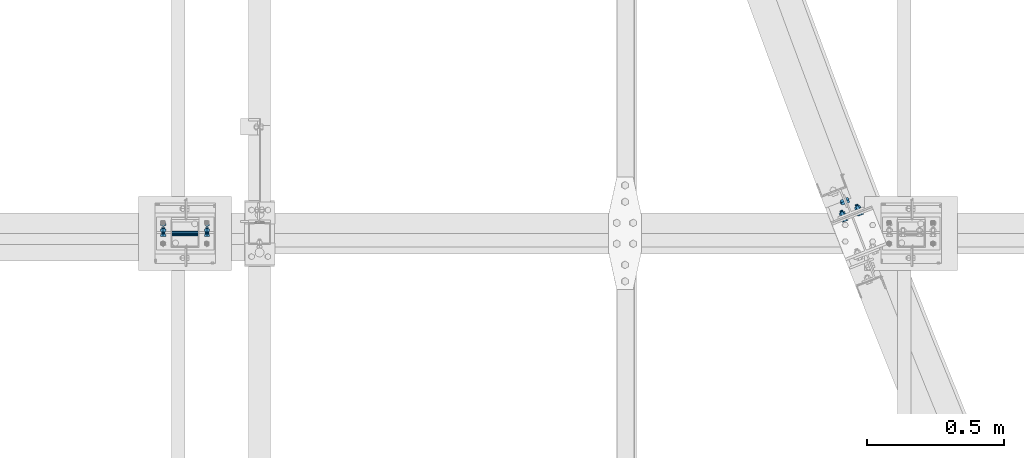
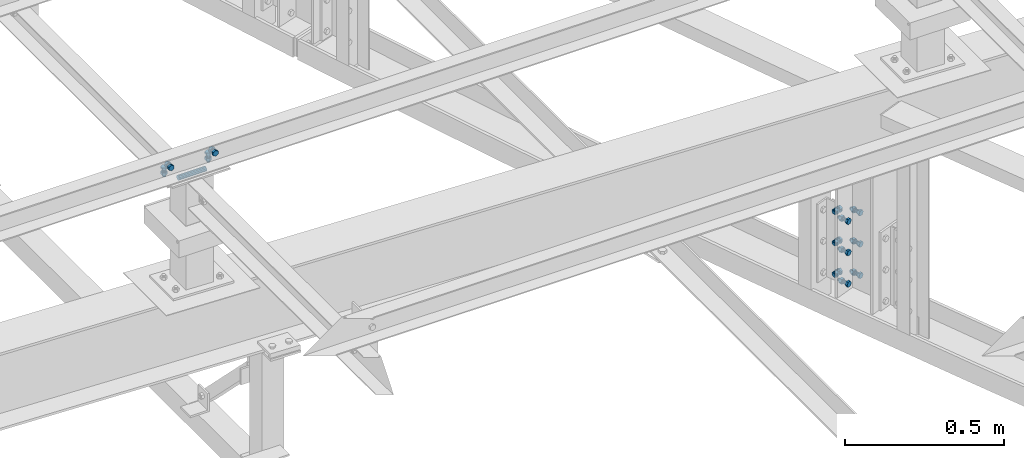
# One storey, part 42 of 3134: 5 mechanical fasteners, 4 elements without a shape of their own.
"""IFC2X3 building model written with IfcOpenShell, lengths in millimetres."""

from ifc_helpers import new_model, si_unit, frame, origin_with_axes, place, context, subcontext, project, spatial, faceted_brep, source, transform, mapped, material, type_object, element, aggregate, save


model = new_model("IFC2X3")

# Units and contexts
model_context = context("Model", 3, precision=1e-05, world=origin_with_axes())
body_context = subcontext(model_context, "Body", "Model", "MODEL_VIEW")
ifc_project = project(units=[si_unit("LENGTHUNIT", "METRE", prefix="MILLI"), si_unit("AREAUNIT", "SQUARE_METRE"), si_unit("VOLUMEUNIT", "CUBIC_METRE"), si_unit("MASSUNIT", "GRAM", prefix="KILO"), si_unit("TIMEUNIT", "SECOND"), si_unit("PLANEANGLEUNIT", "RADIAN"), si_unit("SOLIDANGLEUNIT", "STERADIAN"), si_unit("THERMODYNAMICTEMPERATUREUNIT", "DEGREE_CELSIUS"), si_unit("LUMINOUSINTENSITYUNIT", "LUMEN")], contexts=[model_context])

# Site, building, storey
site_placement = place(None, origin_with_axes())
site = spatial("IfcSite", under=ifc_project, at=site_placement, CompositionType="ELEMENT")
building_placement = place(site_placement, origin_with_axes())
building = spatial("IfcBuilding", under=site, at=building_placement, Name="Undefined", CompositionType="ELEMENT")
storey_placement = place(building_placement, origin_with_axes())
storey = spatial("IfcBuildingStorey", under=building, at=storey_placement, Name="Undefined", CompositionType="ELEMENT", Elevation=0.0)

# Assembly, mechanical fastener
assembly_1_placement = place(storey_placement, origin_with_axes())
assembly_1 = element("IfcElementAssembly", 1, at=assembly_1_placement, inside=storey, AssemblyPlace="NOTDEFINED", PredefinedType="RIGID_FRAME")
ifc_material = material(Name="8.8")
mechanical_fastener_type = type_object("IfcMechanicalFastenerType", Name="Bolt assembly")
shared_shape_1 = source(origin_with_axes(), body_context, "Body", "Brep", [
    faceted_brep([(10.9696551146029, -14.0, 0.0), (5.48482755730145, -14.0, 9.5), (-5.48482755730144, -14.0, 9.5), (-10.9696551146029, -14.0, 1.34339530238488e-15), (-5.48482755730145, -14.0, -9.5), (5.48482755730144, -14.0, -9.50000000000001), (5.48482755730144, -6.0, -9.50000000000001), (-5.48482755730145, -6.0, -9.5), (-10.9696551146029, -6.0, 1.34339530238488e-15), (-5.48482755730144, -6.0, 9.5), (5.48482755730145, -6.0, 9.5), (10.9696551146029, -6.0, 0.0), (6.0, -6.0, 0.0), (5.19615242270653, -6.0, 3.00000000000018), (2.99999999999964, -6.0, 5.19615242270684), (-6.21801588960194e-13, -6.0, 6.0), (-3.00000000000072, -6.0, 5.19615242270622), (-5.19615242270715, -6.0, 2.9999999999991), (-6.0, -6.0, -1.24360317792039e-12), (-5.19615242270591, -6.0, -3.00000000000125), (-2.99999999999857, -6.0, -5.19615242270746), (1.85874342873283e-12, -6.0, -6.0), (3.00000000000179, -6.0, -5.1961524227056), (5.19615242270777, -6.0, -2.99999999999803), (5.19615242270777, 24.0, -2.99999999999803), (3.00000000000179, 24.0, -5.1961524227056), (1.85874342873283e-12, 24.0, -6.0), (-2.99999999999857, 24.0, -5.19615242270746), (-5.19615242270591, 24.0, -3.00000000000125), (-6.0, 24.0, -1.24360317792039e-12), (-5.19615242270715, 24.0, 2.9999999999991), (-3.00000000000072, 24.0, 5.19615242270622), (-6.21801588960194e-13, 24.0, 6.0), (2.99999999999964, 24.0, 5.19615242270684), (5.19615242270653, 24.0, 3.00000000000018), (6.0, 24.0, 0.0), (10.9696551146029, 6.00000000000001, 0.0), (5.48482755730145, 6.00000000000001, 9.5), (-5.48482755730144, 6.00000000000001, 9.5), (-10.9696551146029, 6.00000000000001, 1.34339530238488e-15), (-5.48482755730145, 6.00000000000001, -9.5), (5.48482755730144, 6.00000000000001, -9.50000000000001), (5.48482755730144, 16.0, -9.50000000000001), (-5.48482755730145, 16.0, -9.5), (-10.9696551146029, 16.0, 1.34339530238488e-15), (-5.48482755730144, 16.0, 9.5), (5.48482755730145, 16.0, 9.5), (10.9696551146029, 16.0, 0.0)], [[[0, 1, 2, 3, 4, 5]], [[6, 7, 8, 9, 10, 11]], [[0, 11, 10, 1]], [[1, 10, 9, 2]], [[2, 9, 8, 3]], [[3, 8, 7, 4]], [[4, 7, 6, 5]], [[5, 6, 11, 0]], [[12, 13, 14, 15, 16, 17, 18, 19, 20, 21, 22, 23]], [[24, 25, 26, 27, 28, 29, 30, 31, 32, 33, 34, 35]], [[12, 35, 34, 13]], [[13, 34, 33, 14]], [[14, 33, 32, 15]], [[15, 32, 31, 16]], [[16, 31, 30, 17]], [[17, 30, 29, 18]], [[18, 29, 28, 19]], [[19, 28, 27, 20]], [[20, 27, 26, 21]], [[21, 26, 25, 22]], [[22, 25, 24, 23]], [[23, 24, 35, 12]], [[36, 37, 38, 39, 40, 41]], [[42, 43, 44, 45, 46, 47]], [[36, 47, 46, 37]], [[37, 46, 45, 38]], [[38, 45, 44, 39]], [[39, 44, 43, 40]], [[40, 43, 42, 41]], [[41, 42, 47, 36]]]),
    faceted_brep([(7.0, -0.1, 0.0), (6.06217782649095, -0.1, 3.50000000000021), (3.49999999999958, -0.1, 6.06217782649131), (-7.25435187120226e-13, -0.1, 7.0), (-3.50000000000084, -0.1, 6.06217782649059), (-6.06217782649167, -0.1, 3.49999999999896), (-7.0, -0.1, -1.45087037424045e-12), (-6.06217782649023, -0.1, -3.50000000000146), (-3.49999999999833, -0.1, -6.06217782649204), (2.1685340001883e-12, -0.1, -7.0), (3.50000000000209, -0.1, -6.06217782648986), (6.0621778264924, -0.1, -3.4999999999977), (6.0621778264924, 6.00000000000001, -3.4999999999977), (3.50000000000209, 6.00000000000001, -6.06217782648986), (2.1685340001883e-12, 6.00000000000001, -7.0), (-3.49999999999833, 6.00000000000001, -6.06217782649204), (-6.06217782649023, 6.00000000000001, -3.50000000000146), (-7.0, 6.00000000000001, -1.45087037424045e-12), (-6.06217782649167, 6.00000000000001, 3.49999999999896), (-3.50000000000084, 6.00000000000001, 6.06217782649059), (-7.25435187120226e-13, 6.00000000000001, 7.0), (3.49999999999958, 6.00000000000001, 6.06217782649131), (6.06217782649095, 6.00000000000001, 3.50000000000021), (7.0, 6.00000000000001, 0.0), (7.0, -5.9, 0.0), (6.06217782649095, -5.9, 3.50000000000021), (3.49999999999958, -5.9, 6.06217782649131), (-7.25435187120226e-13, -5.9, 7.0), (-3.50000000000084, -5.9, 6.06217782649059), (-6.06217782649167, -5.9, 3.49999999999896), (-7.0, -5.9, -1.45087037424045e-12), (-6.06217782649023, -5.9, -3.50000000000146), (-3.49999999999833, -5.9, -6.06217782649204), (2.1685340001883e-12, -5.9, -7.0), (3.50000000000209, -5.9, -6.06217782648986), (6.0621778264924, -5.9, -3.4999999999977), (6.0621778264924, 0.0999999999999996, -3.4999999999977), (3.50000000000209, 0.0999999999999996, -6.06217782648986), (2.1685340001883e-12, 0.0999999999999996, -7.0), (-3.49999999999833, 0.0999999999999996, -6.06217782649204), (-6.06217782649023, 0.0999999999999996, -3.50000000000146), (-7.0, 0.0999999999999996, -1.45087037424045e-12), (-6.06217782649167, 0.0999999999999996, 3.49999999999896), (-3.50000000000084, 0.0999999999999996, 6.06217782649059), (-7.25435187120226e-13, 0.0999999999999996, 7.0), (3.49999999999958, 0.0999999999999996, 6.06217782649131), (6.06217782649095, 0.0999999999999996, 3.50000000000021), (7.0, 0.0999999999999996, 0.0)], [[[0, 1, 2, 3, 4, 5, 6, 7, 8, 9, 10, 11]], [[12, 13, 14, 15, 16, 17, 18, 19, 20, 21, 22, 23]], [[0, 23, 22, 1]], [[1, 22, 21, 2]], [[2, 21, 20, 3]], [[3, 20, 19, 4]], [[4, 19, 18, 5]], [[5, 18, 17, 6]], [[6, 17, 16, 7]], [[7, 16, 15, 8]], [[8, 15, 14, 9]], [[9, 14, 13, 10]], [[10, 13, 12, 11]], [[11, 12, 23, 0]], [[24, 25, 26, 27, 28, 29, 30, 31, 32, 33, 34, 35]], [[36, 37, 38, 39, 40, 41, 42, 43, 44, 45, 46, 47]], [[24, 47, 46, 25]], [[25, 46, 45, 26]], [[26, 45, 44, 27]], [[27, 44, 43, 28]], [[28, 43, 42, 29]], [[29, 42, 41, 30]], [[30, 41, 40, 31]], [[31, 40, 39, 32]], [[32, 39, 38, 33]], [[33, 38, 37, 34]], [[34, 37, 36, 35]], [[35, 36, 47, 24]]]),
])
mechanical_fastener_1_placement = place(assembly_1_placement, frame((3043.33, 17355.0, 4365.0), z_axis=(1.0, 0.0, 0.0), x_axis=(0.0, -1.0, 0.0)))
mechanical_fastener_1 = element("IfcMechanicalFastener", 2, at=mechanical_fastener_1_placement, type_object=mechanical_fastener_type, material=ifc_material, Name="Bolt assembly", NominalDiameter=12.0, NominalLength=30.0, context=body_context, shape_type="MappedRepresentation", body=[
    mapped(shared_shape_1, transform((0.0, -5.32963895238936e-10, -79.9999999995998))),
    mapped(shared_shape_1, transform((0.0, 5.3114490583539e-10, 79.9999999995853))),
])

assembly_2_placement = place(storey_placement, origin_with_axes())
assembly_2 = element("IfcElementAssembly", 3, at=assembly_2_placement, inside=storey, Name="HEA160", AssemblyPlace="NOTDEFINED", PredefinedType="RIGID_FRAME")
shared_shape_2 = source(origin_with_axes(), body_context, "Body", "Brep", [
    faceted_brep([(10.9696551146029, -17.0000000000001, 0.0), (5.48482755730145, -17.0000000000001, 9.5), (-5.48482755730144, -17.0000000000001, 9.5), (-10.9696551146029, -17.0000000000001, 1.34339530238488e-15), (-5.48482755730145, -17.0000000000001, -9.5), (5.48482755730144, -17.0000000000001, -9.50000000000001), (5.48482755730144, -9.00000000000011, -9.50000000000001), (-5.48482755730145, -9.00000000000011, -9.5), (-10.9696551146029, -9.00000000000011, 1.34339530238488e-15), (-5.48482755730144, -9.00000000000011, 9.5), (5.48482755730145, -9.00000000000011, 9.5), (10.9696551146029, -9.00000000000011, 0.0), (6.0, -9.00000000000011, 0.0), (5.19615242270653, -9.00000000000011, 3.00000000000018), (2.99999999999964, -9.00000000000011, 5.19615242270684), (-6.21801588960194e-13, -9.00000000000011, 6.0), (-3.00000000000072, -9.00000000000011, 5.19615242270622), (-5.19615242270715, -9.00000000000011, 2.9999999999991), (-6.0, -9.00000000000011, -1.24360317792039e-12), (-5.19615242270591, -9.00000000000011, -3.00000000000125), (-2.99999999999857, -9.00000000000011, -5.19615242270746), (1.85874342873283e-12, -9.00000000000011, -6.0), (3.00000000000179, -9.00000000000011, -5.1961524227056), (5.19615242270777, -9.00000000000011, -2.99999999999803), (5.19615242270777, 26.0, -2.99999999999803), (3.00000000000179, 26.0, -5.1961524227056), (1.85874342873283e-12, 26.0, -6.0), (-2.99999999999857, 26.0, -5.19615242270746), (-5.19615242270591, 26.0, -3.00000000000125), (-6.0, 26.0, -1.24360317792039e-12), (-5.19615242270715, 26.0, 2.9999999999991), (-3.00000000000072, 26.0, 5.19615242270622), (-6.21801588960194e-13, 26.0, 6.0), (2.99999999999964, 26.0, 5.19615242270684), (5.19615242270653, 26.0, 3.00000000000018), (6.0, 26.0, 0.0), (10.9696551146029, 8.0, 0.0), (5.48482755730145, 8.0, 9.5), (-5.48482755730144, 8.0, 9.5), (-10.9696551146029, 8.0, 1.34339530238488e-15), (-5.48482755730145, 8.0, -9.5), (5.48482755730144, 8.0, -9.50000000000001), (5.48482755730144, 18.0, -9.50000000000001), (-5.48482755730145, 18.0, -9.5), (-10.9696551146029, 18.0, 1.34339530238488e-15), (-5.48482755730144, 18.0, 9.5), (5.48482755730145, 18.0, 9.5), (10.9696551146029, 18.0, 0.0)], [[[0, 1, 2, 3, 4, 5]], [[6, 7, 8, 9, 10, 11]], [[0, 11, 10, 1]], [[1, 10, 9, 2]], [[2, 9, 8, 3]], [[3, 8, 7, 4]], [[4, 7, 6, 5]], [[5, 6, 11, 0]], [[12, 13, 14, 15, 16, 17, 18, 19, 20, 21, 22, 23]], [[24, 25, 26, 27, 28, 29, 30, 31, 32, 33, 34, 35]], [[12, 35, 34, 13]], [[13, 34, 33, 14]], [[14, 33, 32, 15]], [[15, 32, 31, 16]], [[16, 31, 30, 17]], [[17, 30, 29, 18]], [[18, 29, 28, 19]], [[19, 28, 27, 20]], [[20, 27, 26, 21]], [[21, 26, 25, 22]], [[22, 25, 24, 23]], [[23, 24, 35, 12]], [[36, 37, 38, 39, 40, 41]], [[42, 43, 44, 45, 46, 47]], [[36, 47, 46, 37]], [[37, 46, 45, 38]], [[38, 45, 44, 39]], [[39, 44, 43, 40]], [[40, 43, 42, 41]], [[41, 42, 47, 36]]]),
    faceted_brep([(7.0, -0.1, 0.0), (6.06217782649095, -0.1, 3.50000000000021), (3.49999999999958, -0.1, 6.06217782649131), (-7.25435187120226e-13, -0.1, 7.0), (-3.50000000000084, -0.1, 6.06217782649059), (-6.06217782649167, -0.1, 3.49999999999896), (-7.0, -0.1, -1.45087037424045e-12), (-6.06217782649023, -0.1, -3.50000000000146), (-3.49999999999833, -0.1, -6.06217782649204), (2.1685340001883e-12, -0.1, -7.0), (3.50000000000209, -0.1, -6.06217782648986), (6.0621778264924, -0.1, -3.4999999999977), (6.0621778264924, 8.0000000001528, -3.4999999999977), (3.50000000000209, 8.0000000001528, -6.06217782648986), (2.1685340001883e-12, 8.0000000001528, -7.0), (-3.49999999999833, 8.0000000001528, -6.06217782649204), (-6.06217782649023, 8.0000000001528, -3.50000000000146), (-7.0, 8.0000000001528, -1.45087037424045e-12), (-6.06217782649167, 8.0000000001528, 3.49999999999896), (-3.50000000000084, 8.0000000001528, 6.06217782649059), (-7.25435187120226e-13, 8.0000000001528, 7.0), (3.49999999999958, 8.0000000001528, 6.06217782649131), (6.06217782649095, 8.0000000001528, 3.50000000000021), (7.0, 8.0000000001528, 0.0), (7.0, -8.90000000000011, 0.0), (6.06217782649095, -8.90000000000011, 3.50000000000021), (3.49999999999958, -8.90000000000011, 6.06217782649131), (-7.25435187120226e-13, -8.90000000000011, 7.0), (-3.50000000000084, -8.90000000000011, 6.06217782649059), (-6.06217782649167, -8.90000000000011, 3.49999999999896), (-7.0, -8.90000000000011, -1.45087037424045e-12), (-6.06217782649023, -8.90000000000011, -3.50000000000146), (-3.49999999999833, -8.90000000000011, -6.06217782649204), (2.1685340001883e-12, -8.90000000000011, -7.0), (3.50000000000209, -8.90000000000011, -6.06217782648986), (6.0621778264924, -8.90000000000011, -3.4999999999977), (6.0621778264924, 0.0999999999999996, -3.4999999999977), (3.50000000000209, 0.0999999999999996, -6.06217782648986), (2.1685340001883e-12, 0.0999999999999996, -7.0), (-3.49999999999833, 0.0999999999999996, -6.06217782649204), (-6.06217782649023, 0.0999999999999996, -3.50000000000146), (-7.0, 0.0999999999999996, -1.45087037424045e-12), (-6.06217782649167, 0.0999999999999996, 3.49999999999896), (-3.50000000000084, 0.0999999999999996, 6.06217782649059), (-7.25435187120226e-13, 0.0999999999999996, 7.0), (3.49999999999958, 0.0999999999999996, 6.06217782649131), (6.06217782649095, 0.0999999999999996, 3.50000000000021), (7.0, 0.0999999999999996, 0.0)], [[[0, 1, 2, 3, 4, 5, 6, 7, 8, 9, 10, 11]], [[12, 13, 14, 15, 16, 17, 18, 19, 20, 21, 22, 23]], [[0, 23, 22, 1]], [[1, 22, 21, 2]], [[2, 21, 20, 3]], [[3, 20, 19, 4]], [[4, 19, 18, 5]], [[5, 18, 17, 6]], [[6, 17, 16, 7]], [[7, 16, 15, 8]], [[8, 15, 14, 9]], [[9, 14, 13, 10]], [[10, 13, 12, 11]], [[11, 12, 23, 0]], [[24, 25, 26, 27, 28, 29, 30, 31, 32, 33, 34, 35]], [[36, 37, 38, 39, 40, 41, 42, 43, 44, 45, 46, 47]], [[24, 47, 46, 25]], [[25, 46, 45, 26]], [[26, 45, 44, 27]], [[27, 44, 43, 28]], [[28, 43, 42, 29]], [[29, 42, 41, 30]], [[30, 41, 40, 31]], [[31, 40, 39, 32]], [[32, 39, 38, 33]], [[33, 38, 37, 34]], [[34, 37, 36, 35]], [[35, 36, 47, 24]]]),
])
mechanical_fastener_2_placement = place(assembly_2_placement, frame((5445.10846336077, 17379.940317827, 3170.0), z_axis=(0.0, 0.0, 1.0), x_axis=(0.931882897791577, 0.362759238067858, 0.0)))
mechanical_fastener_2 = element("IfcMechanicalFastener", 4, at=mechanical_fastener_2_placement, type_object=mechanical_fastener_type, material=ifc_material, Name="Bolt assembly", NominalDiameter=12.0, NominalLength=35.0, context=body_context, shape_type="MappedRepresentation", body=[
    mapped(shared_shape_2, transform((0.0, 0.0, -120.0))),
    mapped(shared_shape_2, transform((60.0000000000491, 0.0, -120.0))),
    mapped(shared_shape_2, transform((0.0, 0.0, 0.0))),
    mapped(shared_shape_2, transform((59.9999999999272, 0.0, 5.40239852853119e-10))),
    mapped(shared_shape_2, transform((0.0, 0.0, 120.0))),
    mapped(shared_shape_2, transform((60.0000000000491, 0.0, 120.0))),
])
aggregate(assembly_2, [mechanical_fastener_2])

assembly_3_placement = place(storey_placement, origin_with_axes())
assembly_3 = element("IfcElementAssembly", 5, at=assembly_3_placement, inside=storey, AssemblyPlace="NOTDEFINED", PredefinedType="RIGID_FRAME")
shared_shape_3 = source(origin_with_axes(), body_context, "Body", "Brep", [
    faceted_brep([(10.9696551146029, -10.499999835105, 0.0), (5.48482755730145, -10.499999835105, 9.5), (-5.48482755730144, -10.499999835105, 9.5), (-10.9696551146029, -10.499999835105, 1.34339530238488e-15), (-5.48482755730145, -10.499999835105, -9.5), (5.48482755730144, -10.499999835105, -9.50000000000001), (5.48482755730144, -2.49999983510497, -9.50000000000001), (-5.48482755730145, -2.49999983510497, -9.5), (-10.9696551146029, -2.49999983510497, 1.34339530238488e-15), (-5.48482755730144, -2.49999983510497, 9.5), (5.48482755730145, -2.49999983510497, 9.5), (10.9696551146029, -2.49999983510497, 0.0), (6.0, -2.49999983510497, 0.0), (5.19615242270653, -2.49999983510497, 3.00000000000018), (2.99999999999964, -2.49999983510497, 5.19615242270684), (-6.21801588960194e-13, -2.49999983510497, 6.0), (-3.00000000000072, -2.49999983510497, 5.19615242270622), (-5.19615242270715, -2.49999983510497, 2.9999999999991), (-6.0, -2.49999983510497, -1.24360317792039e-12), (-5.19615242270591, -2.49999983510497, -3.00000000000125), (-2.99999999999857, -2.49999983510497, -5.19615242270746), (1.85874342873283e-12, -2.49999983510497, -6.0), (3.00000000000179, -2.49999983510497, -5.1961524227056), (5.19615242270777, -2.49999983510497, -2.99999999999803), (5.19615242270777, 22.5, -2.99999999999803), (3.00000000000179, 22.5, -5.1961524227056), (1.85874342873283e-12, 22.5, -6.0), (-2.99999999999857, 22.5, -5.19615242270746), (-5.19615242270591, 22.5, -3.00000000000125), (-6.0, 22.5, -1.24360317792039e-12), (-5.19615242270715, 22.5, 2.9999999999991), (-3.00000000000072, 22.5, 5.19615242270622), (-6.21801588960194e-13, 22.5, 6.0), (2.99999999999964, 22.5, 5.19615242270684), (5.19615242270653, 22.5, 3.00000000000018), (6.0, 22.5, 0.0), (10.9696551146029, 8.50153105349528, 0.0), (5.48482755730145, 8.50153105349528, 9.5), (-5.48482755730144, 8.50153105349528, 9.5), (-10.9696551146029, 8.50153105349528, 1.34339530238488e-15), (-5.48482755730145, 8.50153105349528, -9.5), (5.48482755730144, 8.50153105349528, -9.50000000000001), (5.48482755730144, 18.5015310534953, -9.50000000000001), (-5.48482755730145, 18.5015310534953, -9.5), (-10.9696551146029, 18.5015310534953, 1.34339530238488e-15), (-5.48482755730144, 18.5015310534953, 9.5), (5.48482755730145, 18.5015310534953, 9.5), (10.9696551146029, 18.5015310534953, 0.0)], [[[0, 1, 2, 3, 4, 5]], [[6, 7, 8, 9, 10, 11]], [[0, 11, 10, 1]], [[1, 10, 9, 2]], [[2, 9, 8, 3]], [[3, 8, 7, 4]], [[4, 7, 6, 5]], [[5, 6, 11, 0]], [[12, 13, 14, 15, 16, 17, 18, 19, 20, 21, 22, 23]], [[24, 25, 26, 27, 28, 29, 30, 31, 32, 33, 34, 35]], [[12, 35, 34, 13]], [[13, 34, 33, 14]], [[14, 33, 32, 15]], [[15, 32, 31, 16]], [[16, 31, 30, 17]], [[17, 30, 29, 18]], [[18, 29, 28, 19]], [[19, 28, 27, 20]], [[20, 27, 26, 21]], [[21, 26, 25, 22]], [[22, 25, 24, 23]], [[23, 24, 35, 12]], [[36, 37, 38, 39, 40, 41]], [[42, 43, 44, 45, 46, 47]], [[36, 47, 46, 37]], [[37, 46, 45, 38]], [[38, 45, 44, 39]], [[39, 44, 43, 40]], [[40, 43, 42, 41]], [[41, 42, 47, 36]]]),
    faceted_brep([(7.0, -2.39999983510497, 7.0), (6.46715672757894, -2.39999983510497, 9.6787840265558), (4.94974746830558, -2.39999983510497, 11.9497474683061), (-7.25435187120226e-13, -2.39999983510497, 14.0), (-3.50000000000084, -2.39999983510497, 13.0621778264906), (-6.06217782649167, -2.39999983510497, 10.499999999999), (-7.0, -2.39999983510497, 6.99999999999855), (-7.0, -2.39999983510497, -7.00000000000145), (-6.06217782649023, -2.39999983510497, -10.5000000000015), (-3.49999999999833, -2.39999983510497, -13.062177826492), (2.1685340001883e-12, -2.39999983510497, -14.0), (3.50000000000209, -2.39999983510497, -13.0621778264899), (6.0621778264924, -2.39999983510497, -10.4999999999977), (7.0, -2.39999983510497, -6.9999999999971), (7.0, 2.60000016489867, -6.9999999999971), (6.0621778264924, 2.60000016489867, -10.4999999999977), (3.50000000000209, 2.60000016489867, -13.0621778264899), (2.1685340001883e-12, 2.60000016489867, -14.0), (-3.49999999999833, 2.60000016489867, -13.062177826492), (-6.06217782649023, 2.60000016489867, -10.5000000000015), (-7.0, 2.60000016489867, -7.00000000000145), (-7.0, 2.60000016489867, 6.99999999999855), (-6.06217782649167, 2.60000016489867, 10.499999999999), (-3.50000000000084, 2.60000016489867, 13.0621778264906), (-7.25435187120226e-13, 2.60000016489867, 14.0), (2.67878402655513, 2.60000016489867, 13.4671567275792), (4.94974746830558, 2.60000016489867, 11.9497474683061), (6.46715672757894, 2.60000016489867, 9.6787840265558), (7.0, 2.60000016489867, 7.0), (2.67878402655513, -2.39999983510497, 13.4671567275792), (7.0, 2.4015310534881, 0.0), (6.06217782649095, 2.4015310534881, 3.50000000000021), (3.49999999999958, 2.4015310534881, 6.06217782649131), (-7.25435187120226e-13, 2.4015310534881, 7.0), (-3.50000000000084, 2.4015310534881, 6.06217782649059), (-6.06217782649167, 2.4015310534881, 3.49999999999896), (-7.0, 2.4015310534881, -1.45087037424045e-12), (-6.06217782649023, 2.4015310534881, -3.50000000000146), (-3.49999999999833, 2.4015310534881, -6.06217782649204), (2.1685340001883e-12, 2.4015310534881, -7.0), (3.50000000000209, 2.4015310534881, -6.06217782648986), (6.0621778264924, 2.4015310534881, -3.4999999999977), (6.0621778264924, 8.50153105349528, -3.4999999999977), (3.50000000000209, 8.50153105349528, -6.06217782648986), (2.1685340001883e-12, 8.50153105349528, -7.0), (-3.49999999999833, 8.50153105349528, -6.06217782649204), (-6.06217782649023, 8.50153105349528, -3.50000000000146), (-7.0, 8.50153105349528, -1.45087037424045e-12), (-6.06217782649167, 8.50153105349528, 3.49999999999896), (-3.50000000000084, 8.50153105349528, 6.06217782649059), (-7.25435187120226e-13, 8.50153105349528, 7.0), (3.49999999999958, 8.50153105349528, 6.06217782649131), (6.06217782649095, 8.50153105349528, 3.50000000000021), (7.0, 8.50153105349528, 0.0)], [[[0, 1, 2, 3, 4, 5, 6, 7, 8, 9, 10, 11, 12, 13]], [[14, 15, 16, 17, 18, 19, 20, 21, 22, 23, 24, 25, 26, 27, 28]], [[0, 28, 27, 1]], [[1, 27, 26, 2]], [[2, 26, 25, 29]], [[29, 25, 24, 3]], [[3, 24, 23, 4]], [[4, 23, 22, 5]], [[5, 22, 21, 6]], [[6, 21, 20, 7]], [[7, 20, 19, 8]], [[8, 19, 18, 9]], [[9, 18, 17, 10]], [[10, 17, 16, 11]], [[11, 16, 15, 12]], [[12, 15, 14, 13]], [[13, 14, 28, 0]], [[30, 31, 32, 33, 34, 35, 36, 37, 38, 39, 40, 41]], [[42, 43, 44, 45, 46, 47, 48, 49, 50, 51, 52, 53]], [[30, 53, 52, 31]], [[31, 52, 51, 32]], [[32, 51, 50, 33]], [[33, 50, 49, 34]], [[34, 49, 48, 35]], [[35, 48, 47, 36]], [[36, 47, 46, 37]], [[37, 46, 45, 38]], [[38, 45, 44, 39]], [[39, 44, 43, 40]], [[40, 43, 42, 41]], [[41, 42, 53, 30]]]),
])
mechanical_fastener_3_placement = place(assembly_3_placement, frame((5454.38141275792, 17438.8187484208, 3290.00065963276), z_axis=(-0.36275923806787, 0.931882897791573, 0.0), x_axis=(0.0, 0.0, -1.0)))
mechanical_fastener_3 = element("IfcMechanicalFastener", 6, at=mechanical_fastener_3_placement, type_object=mechanical_fastener_type, material=ifc_material, Name="Bolt assembly", NominalDiameter=12.0, NominalLength=25.0, context=body_context, shape_type="MappedRepresentation", body=[
    mapped(shared_shape_3, transform((0.0, 0.0, 0.0))),
    mapped(shared_shape_3, transform((120.0, 0.0, 0.0))),
    mapped(shared_shape_3, transform((240.0, 0.0, 0.0))),
])
aggregate(assembly_3, [mechanical_fastener_3])

assembly_4_placement = place(storey_placement, origin_with_axes())
assembly_4 = element("IfcElementAssembly", 7, at=assembly_4_placement, inside=storey, AssemblyPlace="NOTDEFINED", PredefinedType="RIGID_FRAME")
shared_shape_4 = source(origin_with_axes(), body_context, "Body", "Brep", [
    faceted_brep([(9.0, -50.0, 0.0), (7.79422863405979, -50.0, 4.50000000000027), (4.49999999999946, -50.0, 7.79422863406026), (-9.3270238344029e-13, -50.0, 9.0), (-4.50000000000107, -50.0, 7.79422863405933), (-7.79422863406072, -50.0, 4.49999999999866), (-9.0, -50.0, -1.86540476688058e-12), (-7.79422863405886, -50.0, -4.50000000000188), (-4.49999999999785, -50.0, -7.79422863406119), (2.78811514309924e-12, -50.0, -9.0), (4.50000000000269, -50.0, -7.7942286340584), (7.79422863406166, -50.0, -4.49999999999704), (7.79422863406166, 50.1, -4.49999999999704), (4.50000000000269, 50.1, -7.7942286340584), (2.78811514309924e-12, 50.1, -9.0), (-4.49999999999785, 50.1, -7.79422863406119), (-7.79422863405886, 50.1, -4.50000000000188), (-9.0, 50.1, -1.86540476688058e-12), (-7.79422863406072, 50.1, 4.49999999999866), (-4.50000000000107, 50.1, 7.79422863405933), (-9.3270238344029e-13, 50.1, 9.0), (4.49999999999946, 50.1, 7.79422863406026), (7.79422863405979, 50.1, 4.50000000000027), (9.0, 50.1, 0.0)], [[[0, 1, 2, 3, 4, 5, 6, 7, 8, 9, 10, 11]], [[12, 13, 14, 15, 16, 17, 18, 19, 20, 21, 22, 23]], [[0, 23, 22, 1]], [[1, 22, 21, 2]], [[2, 21, 20, 3]], [[3, 20, 19, 4]], [[4, 19, 18, 5]], [[5, 18, 17, 6]], [[6, 17, 16, 7]], [[7, 16, 15, 8]], [[8, 15, 14, 9]], [[9, 14, 13, 10]], [[10, 13, 12, 11]], [[11, 12, 23, 0]]]),
])
mechanical_fastener_4_placement = place(assembly_4_placement, frame((3043.33, 17320.0, 4345.0), z_axis=(0.0, 1.0, 0.0), x_axis=(0.0, 0.0, 1.0)))
mechanical_fastener_4 = element("IfcMechanicalFastener", 8, at=mechanical_fastener_4_placement, type_object=mechanical_fastener_type, material=ifc_material, Name="Bolt assembly", NominalDiameter=16.0, NominalLength=100.0, context=body_context, shape_type="MappedRepresentation", body=[
    mapped(shared_shape_4, transform((0.0, 0.0, 0.0))),
])
aggregate(assembly_4, [mechanical_fastener_4])

# Mechanical fastener
shared_shape_5 = source(origin_with_axes(), body_context, "Body", "Brep", [
    faceted_brep([(10.9696551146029, -12.0003169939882, 0.0), (5.48482755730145, -12.0003169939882, 9.5), (-5.48482755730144, -12.0003169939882, 9.5), (-10.9696551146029, -12.0003169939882, 1.34339530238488e-15), (-5.48482755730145, -12.0003169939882, -9.5), (5.48482755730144, -12.0003169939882, -9.50000000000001), (5.48482755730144, -4.00031699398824, -9.50000000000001), (-5.48482755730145, -4.00031699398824, -9.5), (-10.9696551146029, -4.00031699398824, 1.34339530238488e-15), (-5.48482755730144, -4.00031699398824, 9.5), (5.48482755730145, -4.00031699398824, 9.5), (10.9696551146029, -4.00031699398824, 0.0), (6.0, -4.00031699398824, 0.0), (5.19615242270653, -4.00031699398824, 3.00000000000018), (2.99999999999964, -4.00031699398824, 5.19615242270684), (-6.21801588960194e-13, -4.00031699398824, 6.0), (-3.00000000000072, -4.00031699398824, 5.19615242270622), (-5.19615242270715, -4.00031699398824, 2.9999999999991), (-6.0, -4.00031699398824, -1.24360317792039e-12), (-5.19615242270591, -4.00031699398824, -3.00000000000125), (-2.99999999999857, -4.00031699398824, -5.19615242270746), (1.85874342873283e-12, -4.00031699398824, -6.0), (3.00000000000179, -4.00031699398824, -5.1961524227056), (5.19615242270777, -4.00031699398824, -2.99999999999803), (5.19615242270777, 20.9997148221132, -2.99999999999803), (3.00000000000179, 20.9997148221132, -5.1961524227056), (1.85874342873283e-12, 20.9997148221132, -6.0), (-2.99999999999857, 20.9997148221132, -5.19615242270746), (-5.19615242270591, 20.9997148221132, -3.00000000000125), (-6.0, 20.9997148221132, -1.24360317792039e-12), (-5.19615242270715, 20.9997148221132, 2.9999999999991), (-3.00000000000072, 20.9997148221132, 5.19615242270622), (-6.21801588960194e-13, 20.9997148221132, 6.0), (2.99999999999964, 20.9997148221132, 5.19615242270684), (5.19615242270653, 20.9997148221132, 3.00000000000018), (6.0, 20.9997148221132, 0.0), (10.9696551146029, 6.00000000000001, 0.0), (5.48482755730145, 6.00000000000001, 9.5), (-5.48482755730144, 6.00000000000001, 9.5), (-10.9696551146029, 6.00000000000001, 1.34339530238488e-15), (-5.48482755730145, 6.00000000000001, -9.5), (5.48482755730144, 6.00000000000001, -9.50000000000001), (5.48482755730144, 16.0, -9.50000000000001), (-5.48482755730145, 16.0, -9.5), (-10.9696551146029, 16.0, 1.34339530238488e-15), (-5.48482755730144, 16.0, 9.5), (5.48482755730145, 16.0, 9.5), (10.9696551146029, 16.0, 0.0)], [[[0, 1, 2, 3, 4, 5]], [[6, 7, 8, 9, 10, 11]], [[0, 11, 10, 1]], [[1, 10, 9, 2]], [[2, 9, 8, 3]], [[3, 8, 7, 4]], [[4, 7, 6, 5]], [[5, 6, 11, 0]], [[12, 13, 14, 15, 16, 17, 18, 19, 20, 21, 22, 23]], [[24, 25, 26, 27, 28, 29, 30, 31, 32, 33, 34, 35]], [[12, 35, 34, 13]], [[13, 34, 33, 14]], [[14, 33, 32, 15]], [[15, 32, 31, 16]], [[16, 31, 30, 17]], [[17, 30, 29, 18]], [[18, 29, 28, 19]], [[19, 28, 27, 20]], [[20, 27, 26, 21]], [[21, 26, 25, 22]], [[22, 25, 24, 23]], [[23, 24, 35, 12]], [[36, 37, 38, 39, 40, 41]], [[42, 43, 44, 45, 46, 47]], [[36, 47, 46, 37]], [[37, 46, 45, 38]], [[38, 45, 44, 39]], [[39, 44, 43, 40]], [[40, 43, 42, 41]], [[41, 42, 47, 36]]]),
    faceted_brep([(7.0, -3.90031233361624, 0.0), (6.06217782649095, -3.90027629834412, 3.50000000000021), (3.49999999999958, -3.90031233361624, 6.06217782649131), (-7.25435187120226e-13, -3.90027629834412, 7.0), (-3.50000000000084, -3.90027629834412, 6.06217782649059), (-6.06217782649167, -3.90027629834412, 3.49999999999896), (-7.0, -3.90031233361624, -1.45087037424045e-12), (-6.06217782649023, -3.90027629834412, -3.50000000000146), (-3.49999999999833, -3.90027629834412, -6.06217782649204), (2.1685340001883e-12, -3.90027629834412, -7.0), (3.50000000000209, -3.90027629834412, -6.06217782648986), (6.0621778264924, -3.90031233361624, -3.4999999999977), (6.0621778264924, 0.0996830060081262, -3.4999999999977), (3.50000000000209, 0.0996830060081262, -6.06217782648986), (2.1685340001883e-12, 0.0996830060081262, -7.0), (-3.49999999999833, 0.0996830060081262, -6.06217782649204), (-6.06217782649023, 0.0996830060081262, -3.50000000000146), (-7.0, 0.0996830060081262, -1.45087037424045e-12), (-6.06217782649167, 0.0997148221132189, 3.49999999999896), (-3.50000000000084, 0.0997148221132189, 6.06217782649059), (-7.25435187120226e-13, 0.0996830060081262, 7.0), (3.49999999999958, 0.0996830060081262, 6.06217782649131), (6.06217782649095, 0.0996830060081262, 3.50000000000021), (7.0, 0.0997148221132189, 0.0), (7.0, -0.1, 0.0), (6.06217782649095, -0.1, 3.50000000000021), (3.49999999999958, -0.1, 6.06217782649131), (-7.25435187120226e-13, -0.1, 7.0), (-3.50000000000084, -0.1, 6.06217782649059), (-6.06217782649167, -0.1, 3.49999999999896), (-7.0, -0.1, -1.45087037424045e-12), (-6.06217782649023, -0.1, -3.50000000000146), (-3.49999999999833, -0.1, -6.06217782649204), (2.1685340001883e-12, -0.1, -7.0), (3.50000000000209, -0.1, -6.06217782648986), (6.0621778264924, -0.1, -3.4999999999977), (6.0621778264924, 6.00000000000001, -3.4999999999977), (3.50000000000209, 6.00000000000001, -6.06217782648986), (2.1685340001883e-12, 6.00000000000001, -7.0), (-3.49999999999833, 6.00000000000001, -6.06217782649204), (-6.06217782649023, 6.00000000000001, -3.50000000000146), (-7.0, 6.00000000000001, -1.45087037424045e-12), (-6.06217782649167, 6.00000000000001, 3.49999999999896), (-3.50000000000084, 6.00000000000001, 6.06217782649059), (-7.25435187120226e-13, 6.00000000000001, 7.0), (3.49999999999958, 6.00000000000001, 6.06217782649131), (6.06217782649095, 6.00000000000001, 3.50000000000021), (7.0, 6.00000000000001, 0.0)], [[[0, 1, 2, 3, 4, 5, 6, 7, 8, 9, 10, 11]], [[12, 13, 14, 15, 16, 17, 18, 19, 20, 21, 22, 23]], [[0, 23, 22, 1]], [[1, 22, 21, 2]], [[2, 21, 20, 3]], [[3, 20, 19, 4]], [[4, 19, 18, 5]], [[5, 18, 17, 6]], [[6, 17, 16, 7]], [[7, 16, 15, 8]], [[8, 15, 14, 9]], [[9, 14, 13, 10]], [[10, 13, 12, 11]], [[11, 12, 23, 0]], [[24, 25, 26, 27, 28, 29, 30, 31, 32, 33, 34, 35]], [[36, 37, 38, 39, 40, 41, 42, 43, 44, 45, 46, 47]], [[24, 47, 46, 25]], [[25, 46, 45, 26]], [[26, 45, 44, 27]], [[27, 44, 43, 28]], [[28, 43, 42, 29]], [[29, 42, 41, 30]], [[30, 41, 40, 31]], [[31, 40, 39, 32]], [[32, 39, 38, 33]], [[33, 38, 37, 34]], [[34, 37, 36, 35]], [[35, 36, 47, 24]]]),
])
mechanical_fastener_5_placement = place(assembly_1_placement, frame((3043.33, 17320.0, 4400.0), z_axis=(1.0, 0.0, 0.0), x_axis=(0.0, 0.0, -1.0)))
mechanical_fastener_5 = element("IfcMechanicalFastener", 9, at=mechanical_fastener_5_placement, type_object=mechanical_fastener_type, material=ifc_material, Name="Bolt assembly", NominalDiameter=12.0, NominalLength=25.0, context=body_context, shape_type="MappedRepresentation", body=[
    mapped(shared_shape_5, transform((0.0, -5.32963895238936e-10, -79.9999999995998))),
    mapped(shared_shape_5, transform((0.0, 5.3114490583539e-10, 79.9999999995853))),
])

aggregate(assembly_1, [mechanical_fastener_5, mechanical_fastener_1])

save(model, "model.ifc")
